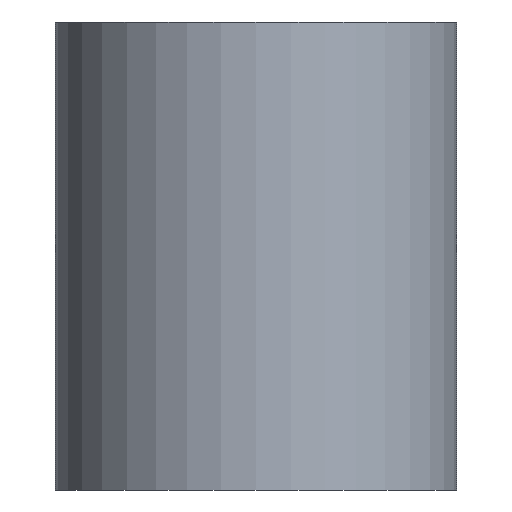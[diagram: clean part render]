
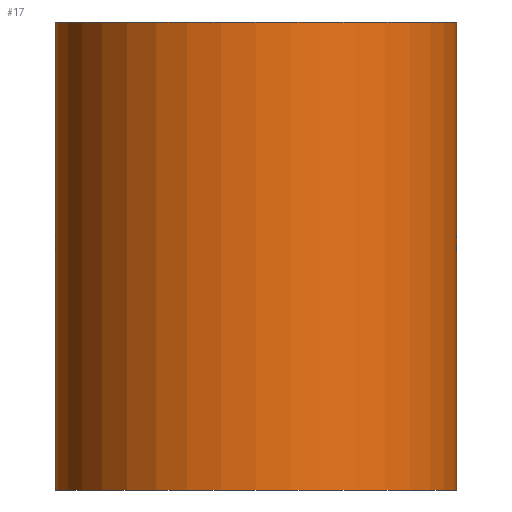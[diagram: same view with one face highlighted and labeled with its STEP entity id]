
A CAD part, front view. The second image highlights one B-rep face of the part: STEP entity #17.
In plain terms, the highlighted cylindrical face has radius 9 mm (diameter 18 mm), a full revolution.
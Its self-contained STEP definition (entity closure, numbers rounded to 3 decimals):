
#17 = ADVANCED_FACE('',(#18),#31,.T.);
#18 = FACE_BOUND('',#19,.T.);
#19 = EDGE_LOOP('',(#20,#54,#77,#104));
#20 = ORIENTED_EDGE('',*,*,#21,.F.);
#21 = EDGE_CURVE('',#22,#22,#24,.T.);
#22 = VERTEX_POINT('',#23);
#23 = CARTESIAN_POINT('',(-441.,-146.833,23.5));
#24 = SURFACE_CURVE('',#25,(#30,#42),.PCURVE_S1.);
#25 = CIRCLE('',#26,9.);
#26 = AXIS2_PLACEMENT_3D('',#27,#28,#29);
#27 = CARTESIAN_POINT('',(-450.,-146.833,23.5));
#28 = DIRECTION('',(0.,0.,1.));
#29 = DIRECTION('',(1.,0.,-0.));
#30 = PCURVE('',#31,#36);
#31 = CYLINDRICAL_SURFACE('',#32,9.);
#32 = AXIS2_PLACEMENT_3D('',#33,#34,#35);
#33 = CARTESIAN_POINT('',(-450.,-146.833,2.5));
#34 = DIRECTION('',(0.,0.,1.));
#35 = DIRECTION('',(1.,0.,-0.));
#36 = DEFINITIONAL_REPRESENTATION('',(#37),#41);
#37 = LINE('',#38,#39);
#38 = CARTESIAN_POINT('',(0.,21.));
#39 = VECTOR('',#40,1.);
#40 = DIRECTION('',(1.,0.));
#41 = ( GEOMETRIC_REPRESENTATION_CONTEXT(2) 
PARAMETRIC_REPRESENTATION_CONTEXT() REPRESENTATION_CONTEXT('2D SPACE',''
  ) );
#42 = PCURVE('',#43,#48);
#43 = PLANE('',#44);
#44 = AXIS2_PLACEMENT_3D('',#45,#46,#47);
#45 = CARTESIAN_POINT('',(-450.,-146.833,23.5));
#46 = DIRECTION('',(0.,0.,1.));
#47 = DIRECTION('',(1.,0.,-0.));
#48 = DEFINITIONAL_REPRESENTATION('',(#49),#53);
#49 = CIRCLE('',#50,9.);
#50 = AXIS2_PLACEMENT_2D('',#51,#52);
#51 = CARTESIAN_POINT('',(0.,0.));
#52 = DIRECTION('',(1.,0.));
#53 = ( GEOMETRIC_REPRESENTATION_CONTEXT(2) 
PARAMETRIC_REPRESENTATION_CONTEXT() REPRESENTATION_CONTEXT('2D SPACE',''
  ) );
#54 = ORIENTED_EDGE('',*,*,#55,.F.);
#55 = EDGE_CURVE('',#56,#22,#58,.T.);
#56 = VERTEX_POINT('',#57);
#57 = CARTESIAN_POINT('',(-441.,-146.833,2.5));
#58 = SEAM_CURVE('',#59,(#63,#70),.PCURVE_S1.);
#59 = LINE('',#60,#61);
#60 = CARTESIAN_POINT('',(-441.,-146.833,2.5));
#61 = VECTOR('',#62,1.);
#62 = DIRECTION('',(0.,0.,1.));
#63 = PCURVE('',#31,#64);
#64 = DEFINITIONAL_REPRESENTATION('',(#65),#69);
#65 = LINE('',#66,#67);
#66 = CARTESIAN_POINT('',(6.283,-0.));
#67 = VECTOR('',#68,1.);
#68 = DIRECTION('',(0.,1.));
#69 = ( GEOMETRIC_REPRESENTATION_CONTEXT(2) 
PARAMETRIC_REPRESENTATION_CONTEXT() REPRESENTATION_CONTEXT('2D SPACE',''
  ) );
#70 = PCURVE('',#31,#71);
#71 = DEFINITIONAL_REPRESENTATION('',(#72),#76);
#72 = LINE('',#73,#74);
#73 = CARTESIAN_POINT('',(0.,-0.));
#74 = VECTOR('',#75,1.);
#75 = DIRECTION('',(0.,1.));
#76 = ( GEOMETRIC_REPRESENTATION_CONTEXT(2) 
PARAMETRIC_REPRESENTATION_CONTEXT() REPRESENTATION_CONTEXT('2D SPACE',''
  ) );
#77 = ORIENTED_EDGE('',*,*,#78,.T.);
#78 = EDGE_CURVE('',#56,#56,#79,.T.);
#79 = SURFACE_CURVE('',#80,(#85,#92),.PCURVE_S1.);
#80 = CIRCLE('',#81,9.);
#81 = AXIS2_PLACEMENT_3D('',#82,#83,#84);
#82 = CARTESIAN_POINT('',(-450.,-146.833,2.5));
#83 = DIRECTION('',(0.,0.,1.));
#84 = DIRECTION('',(1.,0.,-0.));
#85 = PCURVE('',#31,#86);
#86 = DEFINITIONAL_REPRESENTATION('',(#87),#91);
#87 = LINE('',#88,#89);
#88 = CARTESIAN_POINT('',(0.,0.));
#89 = VECTOR('',#90,1.);
#90 = DIRECTION('',(1.,0.));
#91 = ( GEOMETRIC_REPRESENTATION_CONTEXT(2) 
PARAMETRIC_REPRESENTATION_CONTEXT() REPRESENTATION_CONTEXT('2D SPACE',''
  ) );
#92 = PCURVE('',#93,#98);
#93 = PLANE('',#94);
#94 = AXIS2_PLACEMENT_3D('',#95,#96,#97);
#95 = CARTESIAN_POINT('',(-450.,-146.833,2.5));
#96 = DIRECTION('',(0.,0.,1.));
#97 = DIRECTION('',(1.,0.,-0.));
#98 = DEFINITIONAL_REPRESENTATION('',(#99),#103);
#99 = CIRCLE('',#100,9.);
#100 = AXIS2_PLACEMENT_2D('',#101,#102);
#101 = CARTESIAN_POINT('',(0.,0.));
#102 = DIRECTION('',(1.,0.));
#103 = ( GEOMETRIC_REPRESENTATION_CONTEXT(2) 
PARAMETRIC_REPRESENTATION_CONTEXT() REPRESENTATION_CONTEXT('2D SPACE',''
  ) );
#104 = ORIENTED_EDGE('',*,*,#55,.T.);
